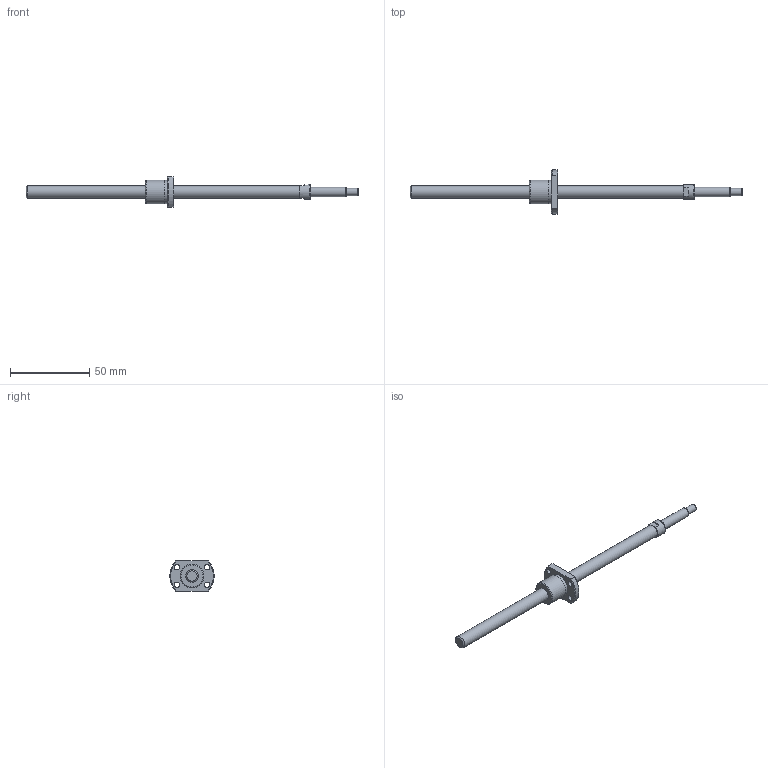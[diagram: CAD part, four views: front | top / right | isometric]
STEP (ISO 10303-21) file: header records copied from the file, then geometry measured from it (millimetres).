
FILE_DESCRIPTION(/* description */ ('STEP AP214'),/* implementation_level */ '2;1');
FILE_NAME(/* name */ 'PSRT0802K-169R210C5A0X(A75.5)',/* time_stamp */ '2026-08-06T16:13:10+02:00',/* author */ ('License CC BY-ND 4.0'),/* organization */ ('CADENAS'),/* preprocessor_version */ 'ST-DEVELOPER v20',/* originating_system */ 'PARTsolutions',/* authorisation */ ' ');
FILE_SCHEMA (('AUTOMOTIVE_DESIGN {1 0 10303 214 3 1 1}'));
Length unit declared in the file: millimetre
Products named in the file (3): PSRT0802K-169R210C5A0X(A75.5); PSRT0802KA210_shaft; PSR0802K_nut
Assembly tree (2 placements, depth 2):
  PSRT0802K-169R210C5A0X(A75.5)
    PSRT0802KA210_shaft
    PSR0802K_nut
Bounding box: 210 x 27.9 x 19 mm (x, y, z)
Volume: 13263.1 mm3; surface area: 7594.1 mm2
Topology: 2 solids, 2 shells, 39 faces, 84 edges, 53 vertices
Faces by surface type: plane 16, cylinder 13, cone 9, torus 1
Full cylindrical faces by diameter (mm): 3.4 x4, 4.5 x1, 6 x1, 8 x2, 9.5 x1, 14.6 x1, 15 x1
Entity records: 1075 total; most frequent: CARTESIAN_POINT 184, DIRECTION 182, ORIENTED_EDGE 132, AXIS2_PLACEMENT_3D 82, EDGE_LOOP 70, FACE_BOUND 70, EDGE_CURVE 66, VERTEX_POINT 52
